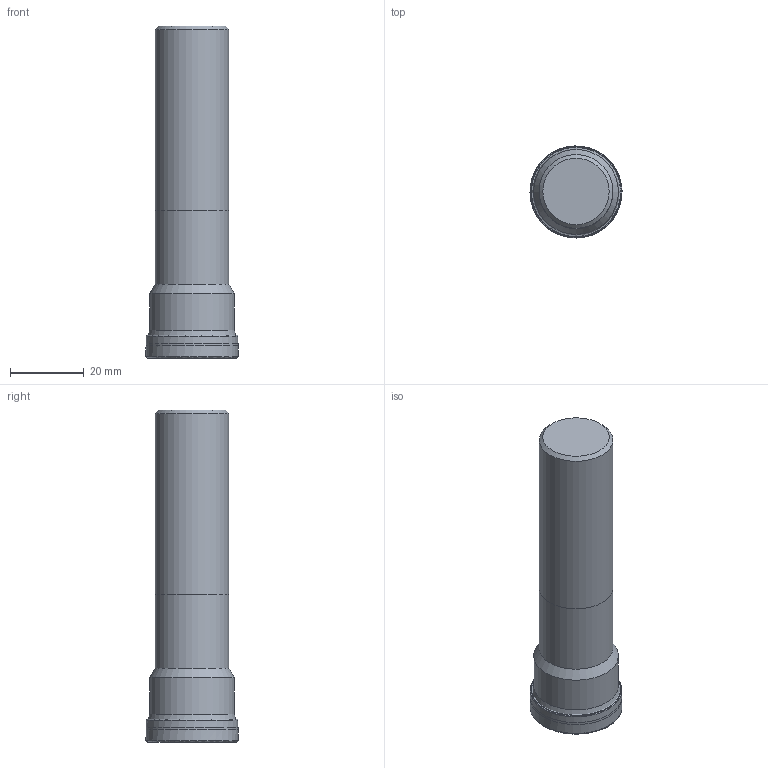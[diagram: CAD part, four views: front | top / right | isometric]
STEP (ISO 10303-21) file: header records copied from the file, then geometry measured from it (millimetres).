
FILE_DESCRIPTION(/* description */ (''),/* implementation_level */ '2;1');
FILE_NAME(/* name */ 'R217.69-2025.3-06-7AN.stp',/* time_stamp */ '2017-10-26T13:19:22+06:00',/* author */ (''),/* organization */ (''),/* preprocessor_version */ 'ST-DEVELOPER v16',/* originating_system */ 'SIEMENS PLM Software NX 11.0',/* authorisation */ '');
FILE_SCHEMA (('AUTOMOTIVE_DESIGN { 1 0 10303 214 3 1 1 1 }'));
Length unit declared in the file: millimetre
Products named in the file (1): R217.69-2025.3-06-7AN
Bounding box: 24.95 x 24.95 x 90 mm (x, y, z)
Volume: 31650.9 mm3; surface area: 9266.4 mm2
Topology: 3 solids, 3 shells, 49 faces, 121 edges, 79 vertices
Faces by surface type: revolution 31, plane 7, cone 5, cylinder 4, torus 2
Full cylindrical faces by diameter (mm): 20 x2, 23 x1, 24.074 x1
Entity records: 1195 total; most frequent: CARTESIAN_POINT 290, DIRECTION 179, EDGE_LOOP 92, ORIENTED_EDGE 92, FACE_BOUND 86, AXIS2_PLACEMENT_3D 71, ADVANCED_FACE 49, VERTEX_POINT 46
